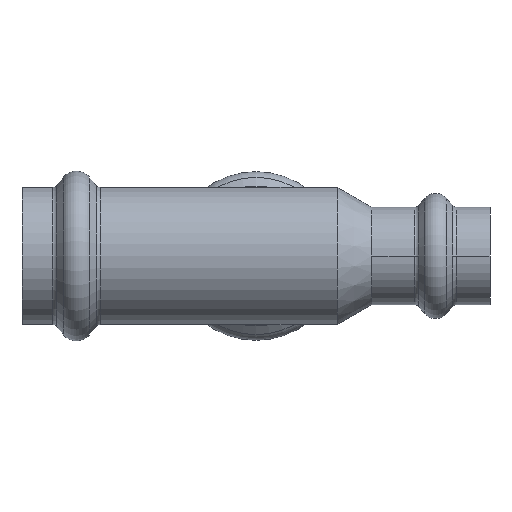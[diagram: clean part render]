
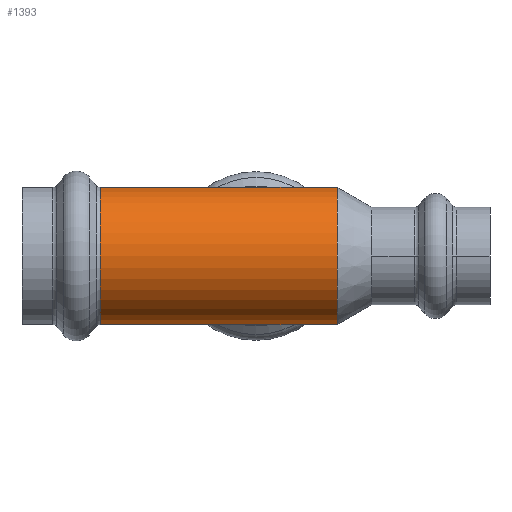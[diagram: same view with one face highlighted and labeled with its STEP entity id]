
A CAD part, front view. The second image highlights one B-rep face of the part: STEP entity #1393.
In plain terms, the highlighted cylindrical face has radius 12.6 mm (diameter 25.2 mm), a partial arc.
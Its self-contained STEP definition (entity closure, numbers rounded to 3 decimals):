
#12 = LINE ( 'NONE', #2888, #3686 ) ;
#57 = CARTESIAN_POINT ( 'NONE',  ( 14.923, 0., 0. ) ) ;
#68 = CARTESIAN_POINT ( 'NONE',  ( -28.606, 0., 0. ) ) ;
#86 = DIRECTION ( 'NONE',  ( -1., 0., 0. ) ) ;
#140 = CARTESIAN_POINT ( 'NONE',  ( -28.606, 0., 12.6 ) ) ;
#231 = AXIS2_PLACEMENT_3D ( 'NONE', #68, #2545, #433 ) ;
#422 = DIRECTION ( 'NONE',  ( 0., 0., 1. ) ) ;
#433 = DIRECTION ( 'NONE',  ( 0., 0., 1. ) ) ;
#589 = EDGE_CURVE ( 'NONE', #3981, #704, #12, .T. ) ;
#704 = VERTEX_POINT ( 'NONE', #140 ) ;
#732 = AXIS2_PLACEMENT_3D ( 'NONE', #2213, #4329, #1460 ) ;
#762 = CIRCLE ( 'NONE', #3914, 12.6 ) ;
#929 = CIRCLE ( 'NONE', #231, 12.6 ) ;
#1029 = VERTEX_POINT ( 'NONE', #4527 ) ;
#1393 = ADVANCED_FACE ( 'NONE', ( #3348 ), #3229, .T. ) ;
#1460 = DIRECTION ( 'NONE',  ( 0., 0., 1. ) ) ;
#1463 = DIRECTION ( 'NONE',  ( -1., 0., 0. ) ) ;
#1930 = VERTEX_POINT ( 'NONE', #4264 ) ;
#2129 = LINE ( 'NONE', #3592, #4027 ) ;
#2213 = CARTESIAN_POINT ( 'NONE',  ( -58.611, 0., 0. ) ) ;
#2537 = DIRECTION ( 'NONE',  ( 1., 0., 0. ) ) ;
#2545 = DIRECTION ( 'NONE',  ( 1., 0., 0. ) ) ;
#2624 = EDGE_CURVE ( 'NONE', #3981, #1930, #762, .T. ) ;
#2641 = ORIENTED_EDGE ( 'NONE', *, *, #2624, .F. ) ;
#2792 = ORIENTED_EDGE ( 'NONE', *, *, #3141, .F. ) ;
#2888 = CARTESIAN_POINT ( 'NONE',  ( -58.611, 0., 12.6 ) ) ;
#2941 = ORIENTED_EDGE ( 'NONE', *, *, #589, .T. ) ;
#3141 = EDGE_CURVE ( 'NONE', #1930, #1029, #2129, .T. ) ;
#3229 = CYLINDRICAL_SURFACE ( 'NONE', #732, 12.6 ) ;
#3348 = FACE_OUTER_BOUND ( 'NONE', #4402, .T. ) ;
#3592 = CARTESIAN_POINT ( 'NONE',  ( -58.611, 0., -12.6 ) ) ;
#3607 = EDGE_CURVE ( 'NONE', #704, #1029, #929, .T. ) ;
#3686 = VECTOR ( 'NONE', #86, 1000. ) ;
#3914 = AXIS2_PLACEMENT_3D ( 'NONE', #57, #2537, #422 ) ;
#3981 = VERTEX_POINT ( 'NONE', #4454 ) ;
#4008 = ORIENTED_EDGE ( 'NONE', *, *, #3607, .T. ) ;
#4027 = VECTOR ( 'NONE', #1463, 1000. ) ;
#4264 = CARTESIAN_POINT ( 'NONE',  ( 14.923, 0., -12.6 ) ) ;
#4329 = DIRECTION ( 'NONE',  ( -1., 0., 0. ) ) ;
#4402 = EDGE_LOOP ( 'NONE', ( #2792, #2641, #2941, #4008 ) ) ;
#4454 = CARTESIAN_POINT ( 'NONE',  ( 14.923, 0., 12.6 ) ) ;
#4527 = CARTESIAN_POINT ( 'NONE',  ( -28.606, 0., -12.6 ) ) ;
